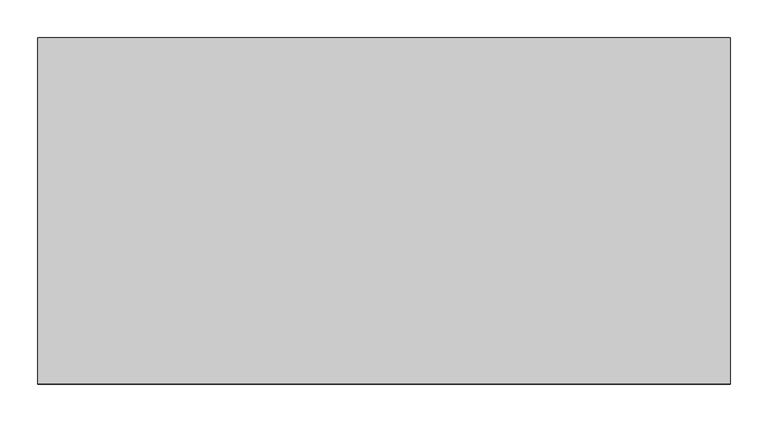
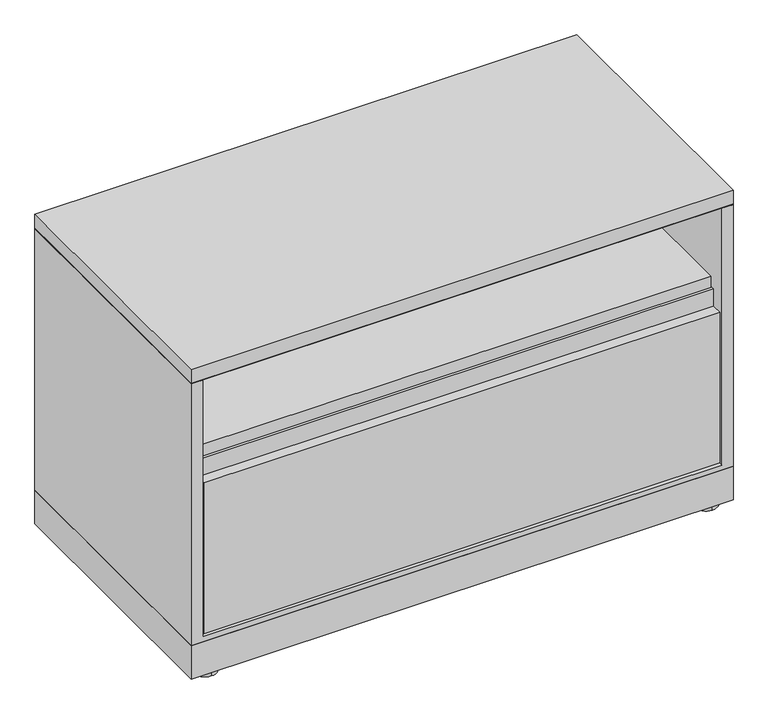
"""IFC4 building model written with IfcOpenShell, lengths in millimetres: furniture geometry, Steelcase - Universal Storage - Lateral File - 1.5 High - Flush Steel : Open/Drawer - 18D x 36W."""

from ifc_helpers import new_model, si_unit, point, frame, frame_2d, origin, origin_with_axes, place, context, project, spatial, polyline, circle_curve, trimmed, segment, composite_curve, outline, extrude, faceted_brep, source, transform, mapped, element, save


def furniture_3462e71f(model_context):
    return source(origin(), model_context, "Body", "SolidModel", [
        extrude(outline(polyline([(914.4, 457.2), (914.4, 0.0), (0.0, 0.0), (0.0, 457.2), (914.4, 457.2)])), frame((0.0, 0.0, 6.3500002), z_axis=(0.0, 0.0, 1.0), x_axis=(1.0, 0.0, 0.0)), (0.0, 0.0, 1.0), 59.6899998),
        extrude(outline(composite_curve([segment(trimmed(circle_curve(frame_2d((879.7290058, 434.8633666)), 20.32), [point((879.7290058, 414.5433666))], [point((879.7290058, 455.1833666))], False, "CARTESIAN"), True, "CONTINUOUS"), segment(trimmed(circle_curve(frame_2d((879.7290058, 434.8633666)), 20.32), [point((879.7290058, 455.1833666))], [point((879.7290058, 414.5433666))], False, "CARTESIAN"), True, "CONTINUOUS")], self_intersect=False)), origin_with_axes(), (0.0, 0.0, 1.0), 6.3500002),
        extrude(outline(composite_curve([segment(trimmed(circle_curve(frame_2d((879.7290058, 20.7491455)), 20.32), [point((879.7290058, 0.4291455))], [point((879.7290058, 41.0691455))], False, "CARTESIAN"), True, "CONTINUOUS"), segment(trimmed(circle_curve(frame_2d((879.7290058, 20.7491455)), 20.32), [point((879.7290058, 41.0691455))], [point((879.7290058, 0.4291455))], False, "CARTESIAN"), True, "CONTINUOUS")], self_intersect=False)), origin_with_axes(), (0.0, 0.0, 1.0), 6.3500002),
        extrude(outline(composite_curve([segment(trimmed(circle_curve(frame_2d((34.29, 434.8633666)), 20.32), [point((34.29, 455.1833666))], [point((34.29, 414.5433666))], False, "CARTESIAN"), True, "CONTINUOUS"), segment(trimmed(circle_curve(frame_2d((34.29, 434.8633666)), 20.32), [point((34.29, 414.5433666))], [point((34.29, 455.1833666))], False, "CARTESIAN"), True, "CONTINUOUS")], self_intersect=False)), origin_with_axes(), (0.0, 0.0, 1.0), 6.3500002),
        extrude(outline(composite_curve([segment(trimmed(circle_curve(frame_2d((34.29, 20.7491455)), 20.32), [point((34.29, 41.0691455))], [point((34.29, 0.4291455))], False, "CARTESIAN"), True, "CONTINUOUS"), segment(trimmed(circle_curve(frame_2d((34.29, 20.7491455)), 20.32), [point((34.29, 0.4291455))], [point((34.29, 41.0691455))], False, "CARTESIAN"), True, "CONTINUOUS")], self_intersect=False)), origin_with_axes(), (0.0, 0.0, 1.0), 6.3500002),
        extrude(outline(polyline([(437.7944128, 396.7988176), (437.7944128, 410.7687861), (440.969412, 410.7687861), (440.969412, 371.5257963), (26.822418, 371.5257963), (26.822418, 396.7988176), (437.7944128, 396.7988176)])), frame((22.0472, 0.0, 0.0), z_axis=(1.0, 0.0, 0.0), x_axis=(0.0, 1.0, 0.0)), (0.0, 0.0, 1.0), 870.3056),
        extrude(outline(polyline([(1.45e-05, 534.0350121), (457.2, 534.0350121), (456.4379879, 533.273), (0.7620266, 533.273), (1.45e-05, 534.0350121)])), frame((0.0, 0.0, 0.0), z_axis=(1.0, 0.0, 0.0), x_axis=(0.0, 1.0, 0.0)), (0.0, 0.0, 1.0), 914.4),
        extrude(outline(polyline([(914.4, 457.2), (914.4, 0.0), (0.0, 0.0), (0.0, 457.2), (914.4, 457.2)])), frame((0.0, 0.0, 534.0350121), z_axis=(0.0, 0.0, 1.0), x_axis=(1.0, 0.0, 0.0)), (0.0, 0.0, 1.0), 24.6379729),
        faceted_brep([(914.4, 0.0, 66.04), (914.4, 457.2, 66.04), (914.4, 457.2, 533.273), (914.4, 0.0, 533.273), (0.0, 0.0, 533.273), (0.0, 457.2, 533.273), (0.0, 457.2, 66.04), (0.0, 0.0, 66.04), (895.35, 0.0, 533.273), (895.35, 0.0, 75.1586), (19.05, 0.0, 75.1586), (19.05, 0.0, 533.273), (19.05, 454.0249999, 533.273), (895.35, 454.0249999, 533.273), (19.05, 454.0249999, 75.1586), (895.35, 454.0249999, 75.1586)], [[[0, 1, 2, 3]], [[4, 5, 6, 7]], [[0, 3, 8, 9, 10, 11, 4, 7]], [[2, 1, 6, 5]], [[3, 2, 5, 4, 11, 12, 13, 8]], [[12, 14, 15, 13]], [[14, 12, 11, 10]], [[13, 15, 9, 8]], [[1, 0, 7, 6]], [[10, 9, 15, 14]]]),
        extrude(outline(polyline([(23.6541043, 79.2988025), (1.5178885, 79.2988025), (1.5178885, 348.1577823), (19.3741023, 348.1577823), (19.3741023, 378.7648167), (23.6541043, 378.7648167), (23.6541043, 79.2988025)])), frame((22.0472, 0.0, 0.0), z_axis=(1.0, 0.0, 0.0), x_axis=(0.0, 1.0, 0.0)), (0.0, 0.0, 1.0), 870.3056),
    ])


if __name__ == "__main__":
    model = new_model("IFC4")
    model_context = context("Model", 3, world=origin())
    ifc_project = project(units=[si_unit("LENGTHUNIT", "METRE", prefix="MILLI")], contexts=[model_context])
    site = spatial("IfcSite", under=ifc_project)
    building = spatial("IfcBuilding", under=site)
    placement = place(None, origin())
    furniture_shape = furniture_3462e71f(model_context)
    element("IfcFurniture", 1, ObjectType="Steelcase - Universal Storage - Lateral File - 1.5 High - Flush Steel : Open/Drawer - 18D x 36W", at=placement, inside=building, context=model_context, shape_type="MappedRepresentation", body=[
        mapped(furniture_shape, transform((0.0, 0.0, 0.0), x_axis=(1.0, 0.0, 0.0), y_axis=(0.0, 1.0, 0.0), z_axis=(0.0, 0.0, 1.0))),
    ])
    save(model, "model.ifc")
